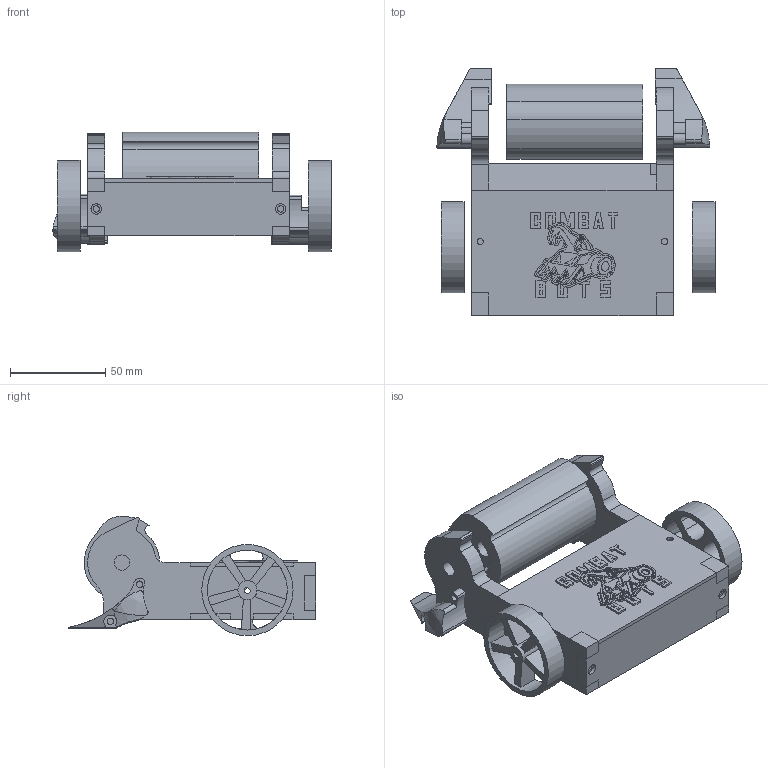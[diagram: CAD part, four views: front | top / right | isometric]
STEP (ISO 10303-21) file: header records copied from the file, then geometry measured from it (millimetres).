
FILE_DESCRIPTION(/* description */ (''),/* implementation_level */ '2;1');
FILE_NAME(/* name */ 'Flanders.step',/* time_stamp */ '2026-03-09T00:28:24+01:00',/* author */ (''),/* organization */ (''),/* preprocessor_version */ 'ST-DEVELOPER v20.1',/* originating_system */ 'Autodesk Translation Framework v14.24.0.0',/* authorisation */ '');
FILE_SCHEMA (('AUTOMOTIVE_DESIGN { 1 0 10303 214 3 1 1 }'));
Products named in the file (6): Flanders (v3~recovered); (Sin guardar); RR 2822 Drum; Jigsaw V1 Robot Assembly; Front Wheel Guard Forks Edition; Front Wheel Guard Forks Edition Alternate
Assembly tree (5 placements, depth 3):
  Flanders (v3~recovered)
    (Sin guardar)
    RR 2822 Drum
    Jigsaw V1 Robot Assembly
      Front Wheel Guard Forks Edition
      Front Wheel Guard Forks Edition Alternate
Bounding box: 146.22 x 130.24 x 62.81 mm (x, y, z)
Volume: 254955.8 mm3; surface area: 108646.5 mm2
Topology: 12 solids, 12 shells, 1351 faces, 3763 edges, 2503 vertices
Faces by surface type: bspline 539, plane 509, cylinder 299, cone 3, torus 1
Full cylindrical faces by diameter (mm): 3.3 x12, 3.429 x4, 4 x12, 5.5 x6, 7 x2, 8 x2, 9.1 x1, 10 x1, 16.3 x2, 22 x2, 28.1 x1, 32 x1, 42 x1, 48 x2
Entity records: 51551 total; most frequent: CARTESIAN_POINT 18868, ORIENTED_EDGE 7526, DIRECTION 5616, EDGE_CURVE 3763, VERTEX_POINT 2503, LINE 2002, VECTOR 2002, AXIS2_PLACEMENT_3D 1807
